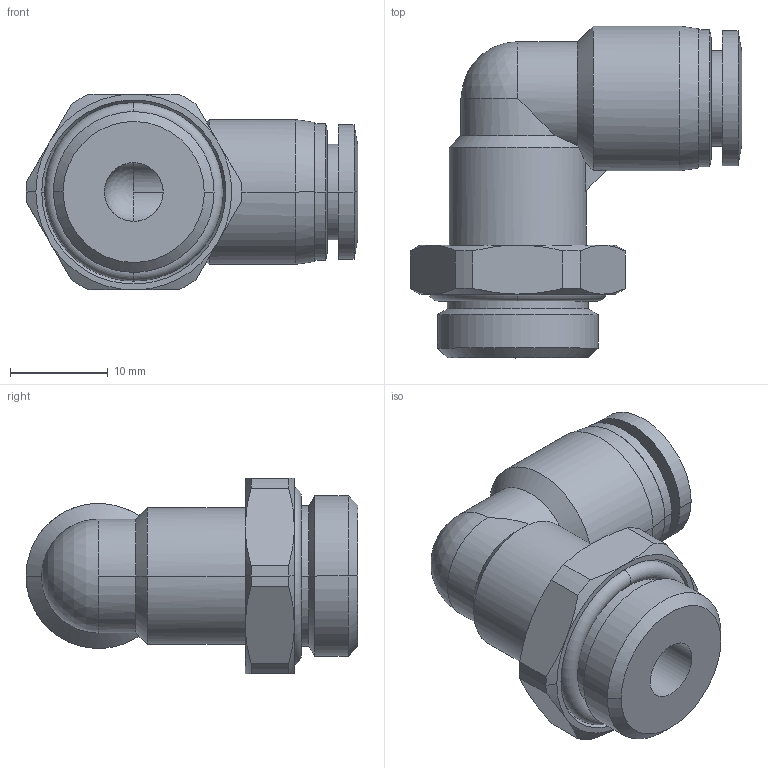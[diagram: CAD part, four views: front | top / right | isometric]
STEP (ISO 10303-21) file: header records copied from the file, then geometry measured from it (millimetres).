
FILE_DESCRIPTION (( 'STEP AP203' ), '1' );
FILE_NAME ('FL08-03.STEP', '2020-04-28T13:42:54', ( '' ), ( '' ), 'SwSTEP 2.0', 'SolidWorks 2019', '' );
FILE_SCHEMA (( 'CONFIG_CONTROL_DESIGN' ));
Length unit declared in the file: millimetre
Products named in the file (1): FL08-03
Bounding box: 33.9 x 33.9 x 20 mm (x, y, z)
Surface area: 4483.4 mm2 (no closed solid volume)
Topology: 0 solids, 4 shells, 90 faces, 215 edges, 134 vertices
Faces by surface type: cylinder 33, cone 30, plane 19, torus 4, bspline 2, sphere 2
Entity records: 4443 total; most frequent: CARTESIAN_POINT 2652, ORIENTED_EDGE 412, DIRECTION 227, EDGE_CURVE 214, B_SPLINE_CURVE_WITH_KNOTS 163, VERTEX_POINT 134, EDGE_LOOP 100, AXIS2_PLACEMENT_3D 93
